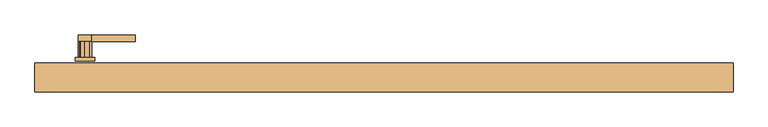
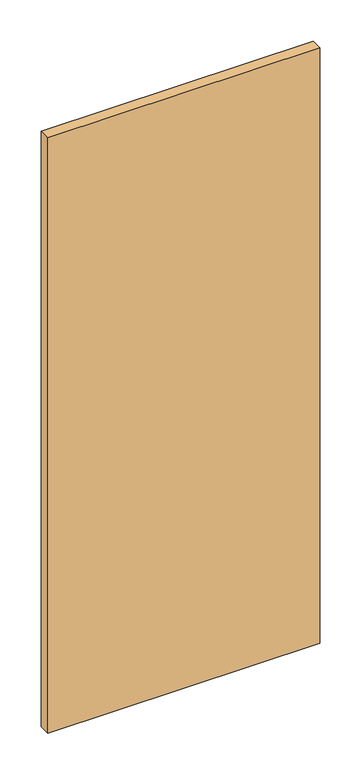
"""IFC4 building model written with IfcOpenShell, lengths in millimetres: door geometry, DoorPanel_Steel_Republic_F : DoorPanel_Steel_Republic_F."""

from ifc_helpers import new_model, si_unit, point, frame, frame_2d, origin, origin_with_axes, place, context, project, spatial, polyline, circle_curve, trimmed, segment, composite_curve, outline, extrude, source, transform, mapped, element, save


def door_7bdfcd05(model_context):
    return source(origin(), model_context, "Body", "SweptSolid", [
        extrude(outline(polyline([(-533.5, 22.225), (533.5, 22.225), (533.5, -22.225), (-533.5, -22.225), (-533.5, 22.225)])), origin_with_axes(), (0.0, 0.0, 1.0), 2471.0),
        extrude(outline(polyline([(1168.1707758, -380.0754708), (1170.688045, -446.9582515), (1170.688045, -466.9577462), (1158.2366838, -466.9577462), (1158.2366838, -446.9582532), (1160.8335019, -380.0754708), (1168.1707758, -380.0754708)])), frame((0.0, 55.4, 0.0), z_axis=(0.0, 1.0, 0.0), x_axis=(0.0, 0.0, 1.0)), (0.0, 0.0, 1.0), 10.0),
        extrude(outline(composite_curve([segment(polyline([(1174.4613339, -450.6470626), (1174.4613339, -456.9583696), (1174.4613339, -463.1815873), (1172.8227257, -465.3170737), (1170.6845568, -466.9577462), (1158.155979, -466.9577462)]), True, "CONTINUOUS"), segment(trimmed(circle_curve(frame_2d((1164.4623666, -456.9567177)), 11.8233284), [point((1158.155979, -466.9577462))], [point((1154.4613374, -463.2631041))], False, "CARTESIAN"), True, "CONTINUOUS"), segment(polyline([(1154.4613374, -463.2631041), (1154.4613374, -456.9550653), (1154.4613374, -450.6503313)]), True, "CONTINUOUS"), segment(trimmed(circle_curve(frame_2d((1164.4623666, -456.9567177)), 11.8233284), [point((1154.4613374, -450.6503313))], [point((1158.1517295, -446.9583702))], False, "CARTESIAN"), True, "CONTINUOUS"), segment(polyline([(1158.1517295, -446.9583702), (1170.7730038, -446.9583702)]), True, "CONTINUOUS"), segment(trimmed(circle_curve(frame_2d((1164.4623666, -456.9567177)), 11.8233284), [point((1170.7730038, -446.9583702))], [point((1174.4613339, -450.6470626))], False, "CARTESIAN"), True, "CONTINUOUS")], self_intersect=False)), frame((0.0, 30.4, 0.0), z_axis=(0.0, 1.0, 0.0), x_axis=(0.0, 0.0, 1.0)), (0.0, 0.0, 1.0), 25.0),
        extrude(outline(polyline([(1194.0277541, -441.9610682), (1194.0277541, -471.9610682), (1064.0277585, -471.9610682), (1064.0277585, -441.9610682), (1194.0277541, -441.9610682)]), holes=[composite_curve([segment(trimmed(circle_curve(frame_2d((1186.4570683, -456.959856)), 3.0), [point((1186.4570683, -459.959856))], [point((1186.4570683, -453.959856))], True, "CARTESIAN"), True, "CONTINUOUS"), segment(trimmed(circle_curve(frame_2d((1186.4570683, -456.959856)), 3.0), [point((1186.4570683, -453.959856))], [point((1186.4570683, -459.959856))], True, "CARTESIAN"), True, "CONTINUOUS")], self_intersect=False), composite_curve([segment(trimmed(circle_curve(frame_2d((1072.5620083, -456.9610682)), 3.0), [point((1072.5620083, -459.9610682))], [point((1072.5620083, -453.9610682))], True, "CARTESIAN"), True, "CONTINUOUS"), segment(trimmed(circle_curve(frame_2d((1072.5620083, -456.9610682)), 3.0), [point((1072.5620083, -453.9610682))], [point((1072.5620083, -459.9610682))], True, "CARTESIAN"), True, "CONTINUOUS")], self_intersect=False), composite_curve([segment(trimmed(circle_curve(frame_2d((1119.9005078, -456.9493961)), 8.0), [point((1127.9005077, -456.9506771))], [point((1112.9729452, -452.9482867))], True, "CARTESIAN"), True, "CONTINUOUS"), segment(polyline([(1112.9729452, -452.9482867), (1100.9359649, -453.0639116), (1099.0062157, -453.0824479)]), True, "CONTINUOUS"), segment(trimmed(circle_curve(frame_2d((1100.0414898, -456.9461517)), 4.0), [point((1099.0062157, -453.0824479))], [point((1096.0414898, -456.9461517))], True, "CARTESIAN"), True, "CONTINUOUS"), segment(trimmed(circle_curve(frame_2d((1100.0414898, -456.9461517)), 4.0), [point((1096.0414898, -456.9461517))], [point((1100.0414898, -460.9461517))], True, "CARTESIAN"), True, "CONTINUOUS"), segment(polyline([(1100.0414898, -460.9461517), (1112.9704325, -460.9461517)]), True, "CONTINUOUS"), segment(trimmed(circle_curve(frame_2d((1119.9005078, -456.9493961)), 8.0), [point((1112.9704325, -460.9461517))], [point((1127.9005077, -456.9506771))], True, "CARTESIAN"), True, "CONTINUOUS")], self_intersect=False)]), frame((0.0, 25.4, 0.0), z_axis=(0.0, 1.0, 0.0), x_axis=(0.0, 0.0, 1.0)), (0.0, 0.0, 1.0), 5.0),
        extrude(outline(composite_curve([segment(polyline([(1117.6073188, -456.4330916), (1122.4415485, -456.2206795)]), True, "CONTINUOUS"), segment(trimmed(circle_curve(frame_2d((1123.1708747, -456.9500052)), 1.0314227), [point((1122.4415485, -456.2206795))], [point((1124.2022973, -456.9500052))], False, "CARTESIAN"), True, "CONTINUOUS"), segment(trimmed(circle_curve(frame_2d((1123.1708747, -456.9500052)), 1.0314227), [point((1124.2022973, -456.9500052))], [point((1122.4415487, -457.6793312))], False, "CARTESIAN"), True, "CONTINUOUS"), segment(polyline([(1122.4415487, -457.6793312), (1117.6073188, -457.4653165), (1115.8194555, -457.4653165)]), True, "CONTINUOUS"), segment(trimmed(circle_curve(frame_2d((1115.8194555, -456.9492041)), 0.5161124), [point((1115.8194555, -457.4653165))], [point((1115.8194555, -456.4330916))], False, "CARTESIAN"), True, "CONTINUOUS"), segment(polyline([(1115.8194555, -456.4330916), (1117.6073188, -456.4330916)]), True, "CONTINUOUS")], self_intersect=False)), frame((0.0, 25.4, 0.0), z_axis=(0.0, 1.0, 0.0), x_axis=(0.0, 0.0, 1.0)), (0.0, 0.0, 1.0), 5.0),
    ])


if __name__ == "__main__":
    model = new_model("IFC4")
    model_context = context("Model", 3, world=origin())
    ifc_project = project(units=[si_unit("LENGTHUNIT", "METRE", prefix="MILLI")], contexts=[model_context])
    site = spatial("IfcSite", under=ifc_project)
    building = spatial("IfcBuilding", under=site)
    placement = place(None, origin())
    door_shape = door_7bdfcd05(model_context)
    element("IfcDoor", 1, ObjectType="DoorPanel_Steel_Republic_F : DoorPanel_Steel_Republic_F", at=placement, inside=building, context=model_context, shape_type="MappedRepresentation", body=[
        mapped(door_shape, transform((0.0, 0.0, 0.0), x_axis=(1.0, 0.0, 0.0), y_axis=(0.0, 1.0, 0.0), z_axis=(0.0, 0.0, 1.0))),
    ])
    save(model, "model.ifc")
